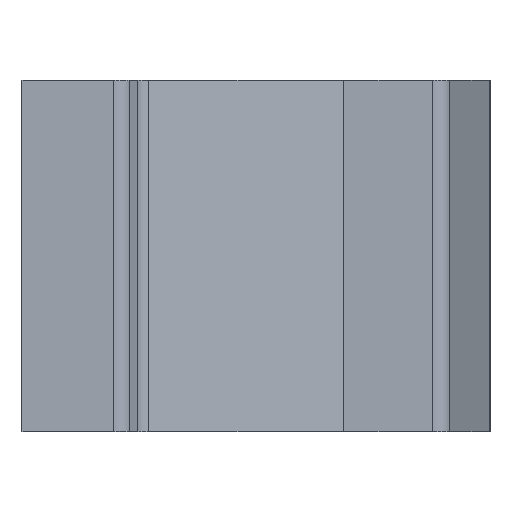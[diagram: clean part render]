
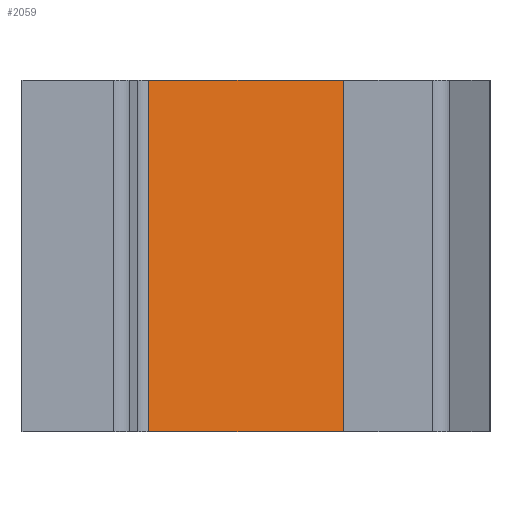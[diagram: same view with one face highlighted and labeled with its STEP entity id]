
A CAD part, left-side view. The second image highlights one B-rep face of the part: STEP entity #2059.
In plain terms, the highlighted planar face has unit normal (-0.966, -0.259, 0).
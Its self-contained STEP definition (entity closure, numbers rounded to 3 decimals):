
#180 = DIRECTION ( 'NONE',  ( 0., 0., 1. ) ) ;
#205 = EDGE_LOOP ( 'NONE', ( #2321, #2176, #942, #2209 ) ) ;
#221 = LINE ( 'NONE', #3171, #1188 ) ;
#341 = DIRECTION ( 'NONE',  ( 0.259, -0.966, 0. ) ) ;
#367 = EDGE_CURVE ( 'NONE', #1931, #1448, #1137, .T. ) ;
#381 = LINE ( 'NONE', #934, #1166 ) ;
#560 = PLANE ( 'NONE',  #962 ) ;
#597 = DIRECTION ( 'NONE',  ( -0.259, 0.966, 0. ) ) ;
#753 = CARTESIAN_POINT ( 'NONE',  ( -28.713, 11.663, -6. ) ) ;
#768 = VECTOR ( 'NONE', #341, 1000. ) ;
#846 = VERTEX_POINT ( 'NONE', #2092 ) ;
#934 = CARTESIAN_POINT ( 'NONE',  ( -26.547, 3.581, 6. ) ) ;
#942 = ORIENTED_EDGE ( 'NONE', *, *, #367, .T. ) ;
#962 = AXIS2_PLACEMENT_3D ( 'NONE', #1735, #3286, #597 ) ;
#1023 = LINE ( 'NONE', #753, #3058 ) ;
#1110 = FACE_OUTER_BOUND ( 'NONE', #205, .T. ) ;
#1137 = LINE ( 'NONE', #2951, #768 ) ;
#1166 = VECTOR ( 'NONE', #180, 1000. ) ;
#1188 = VECTOR ( 'NONE', #3142, 1000. ) ;
#1448 = VERTEX_POINT ( 'NONE', #3099 ) ;
#1604 = CARTESIAN_POINT ( 'NONE',  ( -26.547, 3.581, 6. ) ) ;
#1735 = CARTESIAN_POINT ( 'NONE',  ( -26.278, 2.577, 6. ) ) ;
#1931 = VERTEX_POINT ( 'NONE', #2352 ) ;
#1966 = EDGE_CURVE ( 'NONE', #846, #2430, #221, .T. ) ;
#2059 = ADVANCED_FACE ( 'NONE', ( #1110 ), #560, .F. ) ;
#2092 = CARTESIAN_POINT ( 'NONE',  ( -28.713, 11.663, 6. ) ) ;
#2176 = ORIENTED_EDGE ( 'NONE', *, *, #3273, .T. ) ;
#2209 = ORIENTED_EDGE ( 'NONE', *, *, #3482, .T. ) ;
#2321 = ORIENTED_EDGE ( 'NONE', *, *, #1966, .F. ) ;
#2352 = CARTESIAN_POINT ( 'NONE',  ( -28.713, 11.663, -6. ) ) ;
#2430 = VERTEX_POINT ( 'NONE', #1604 ) ;
#2633 = DIRECTION ( 'NONE',  ( 0., 0., -1. ) ) ;
#2951 = CARTESIAN_POINT ( 'NONE',  ( -26.278, 2.577, -6. ) ) ;
#3058 = VECTOR ( 'NONE', #2633, 1000. ) ;
#3099 = CARTESIAN_POINT ( 'NONE',  ( -26.547, 3.581, -6. ) ) ;
#3142 = DIRECTION ( 'NONE',  ( 0.259, -0.966, 0. ) ) ;
#3171 = CARTESIAN_POINT ( 'NONE',  ( -26.278, 2.577, 6. ) ) ;
#3273 = EDGE_CURVE ( 'NONE', #846, #1931, #1023, .T. ) ;
#3286 = DIRECTION ( 'NONE',  ( 0.966, 0.259, 0. ) ) ;
#3482 = EDGE_CURVE ( 'NONE', #1448, #2430, #381, .T. ) ;
